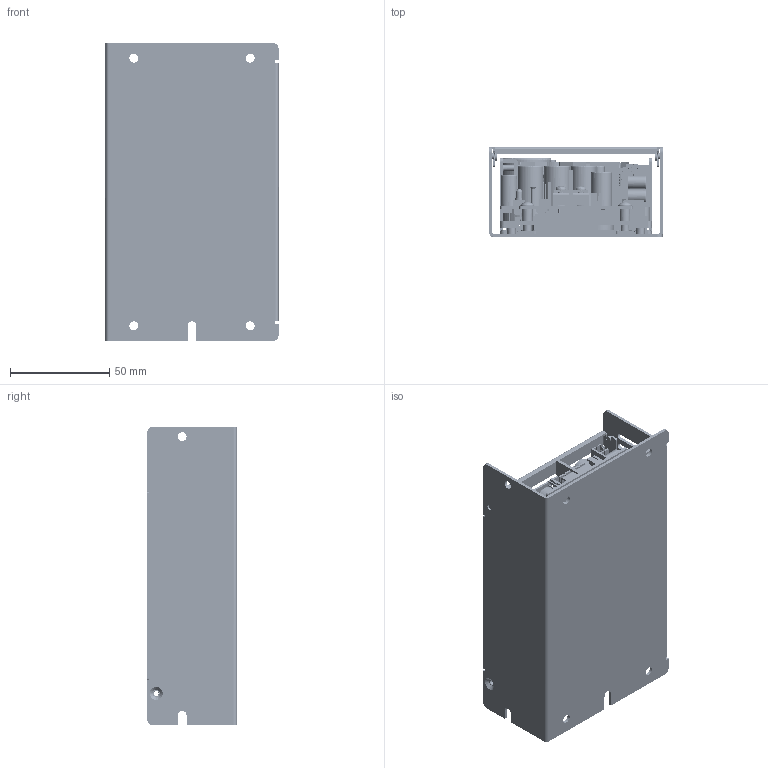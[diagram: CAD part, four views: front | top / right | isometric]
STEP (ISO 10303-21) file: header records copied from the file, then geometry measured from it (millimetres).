
FILE_DESCRIPTION (( 'STEP AP214' ), '1' );
FILE_NAME ('RACM550-G-ENC_3D_20191205.STEP', '2020-01-21T10:08:26', ( '' ), ( '' ), 'SwSTEP 2.0', 'SolidWorks 2019', '' );
FILE_SCHEMA (( 'AUTOMOTIVE_DESIGN' ));
Length unit declared in the file: millimetre
Products named in the file (2): RACM550-G-ENC_3D_20191205
Assembly tree (1 placements, depth 2):
  RACM550-G-ENC_3D_20191205
    RACM550-G-ENC_3D_20191205
Bounding box: 87 x 45 x 150 mm (x, y, z)
Surface area: 279813.7 mm2 (no closed solid volume)
Topology: 0 solids, 443 shells, 5502 faces, 12883 edges, 8322 vertices
Faces by surface type: plane 4189, cylinder 925, bspline 196, cone 81, torus 74, sphere 37
Entity records: 348357 total; most frequent: CARTESIAN_POINT 184002, ORIENTED_EDGE 25727, EDGE_CURVE 12876, B_SPLINE_CURVE_WITH_KNOTS 12814, DIRECTION 10646, VERTEX_POINT 8322, UNCERTAINTY_MEASURE_WITH_UNIT 5944, PRESENTATION_LAYER_ASSIGNMENT 5942
